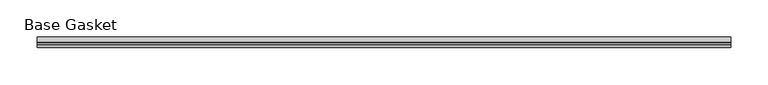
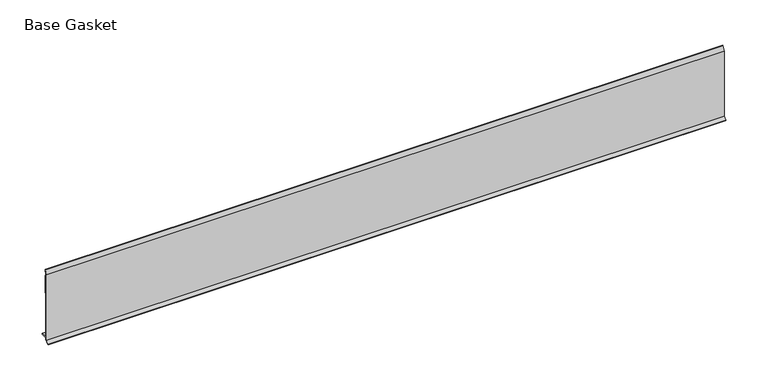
"""IFC4 building model written with IfcOpenShell, lengths in millimetres: furniture geometry, Gasket-Teknion-FHGB-AI_Healthcare-R2021 : Base Gasket."""

from ifc_helpers import new_model, si_unit, frame, origin, place, context, project, spatial, polyline, outline, extrude, source, transform, mapped, element, save


def base_gasket_0dd4cf97(model_context):
    return source(origin(), model_context, "Body", "SweptSolid", [
        extrude(outline(polyline([(-3.7283812, 98.4568417), (-1.1891543, 104.587663), (-0.6755308, 105.2002997), (-0.6755308, 104.4162708), (-2.2043812, 98.4568417), (-2.2043812, 96.8693477), (-1.4106313, 96.8693477), (-1.4106313, 71.4693447), (-2.2043812, 71.4693447), (-2.2043812, 7.9398773), (6.2405171, 7.9398773), (6.2405171, 6.3818476), (-2.1334222, 6.3818476), (-2.2043812, 4.3498477), (-6.8281054, 0.3520979), (-7.8482342, 0.0), (-7.4222115, 0.6560174), (-3.7283812, 4.3498477), (-3.7283812, 98.4568417)])), frame((-1527.8982117, 0.0, 0.0), z_axis=(1.0, 0.0, 0.0), x_axis=(0.0, 1.0, 0.0)), (0.0, 0.0, 1.0), 927.1),
    ])


if __name__ == "__main__":
    model = new_model("IFC4")
    model_context = context("Model", 3, world=origin())
    ifc_project = project(units=[si_unit("LENGTHUNIT", "METRE", prefix="MILLI")], contexts=[model_context])
    site = spatial("IfcSite", under=ifc_project)
    building = spatial("IfcBuilding", under=site)
    placement = place(None, origin())
    base_gasket_shape = base_gasket_0dd4cf97(model_context)
    element("IfcFurniture", 1, ObjectType="Gasket-Teknion-FHGB-AI_Healthcare-R2021 : Base Gasket", at=placement, inside=building, context=model_context, shape_type="MappedRepresentation", body=[
        mapped(base_gasket_shape, transform((0.0, 0.0, 0.0), x_axis=(1.0, 0.0, 0.0), y_axis=(0.0, 1.0, 0.0), z_axis=(0.0, 0.0, 1.0))),
    ])
    save(model, "model.ifc")
